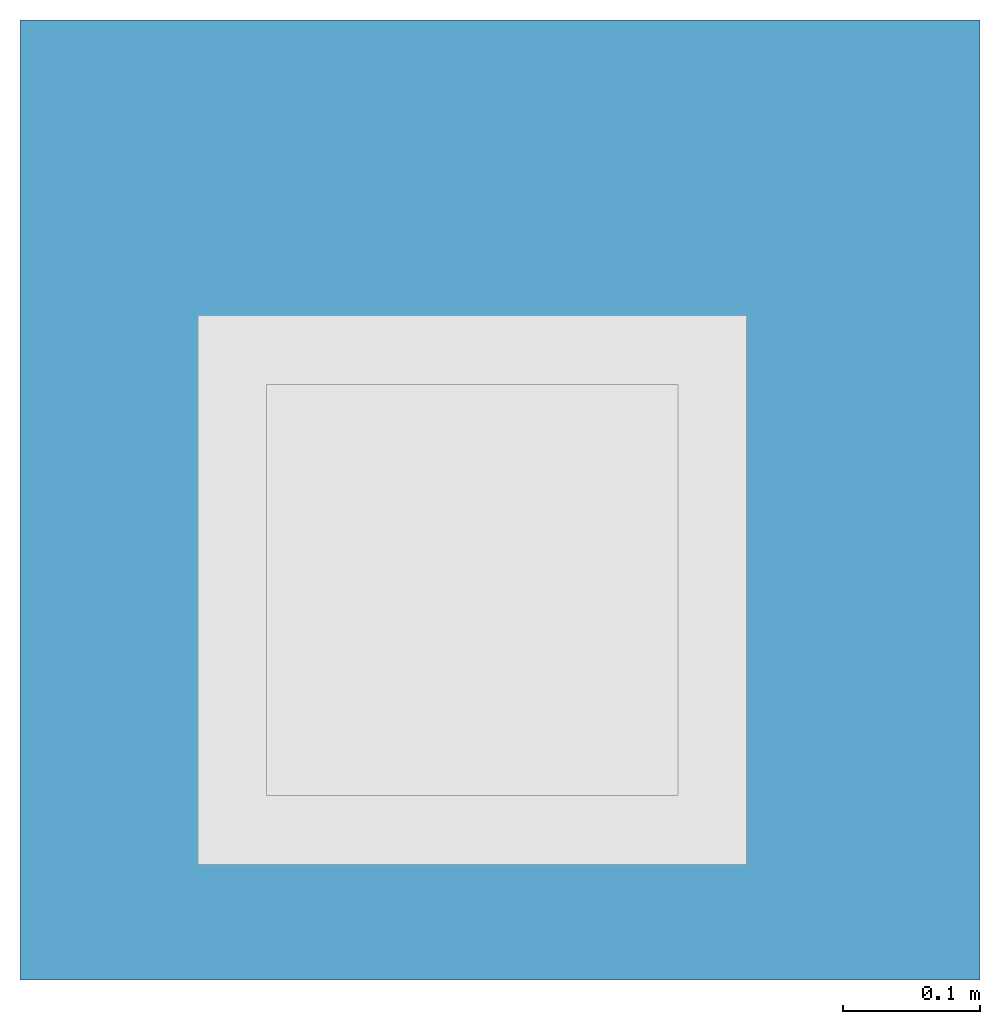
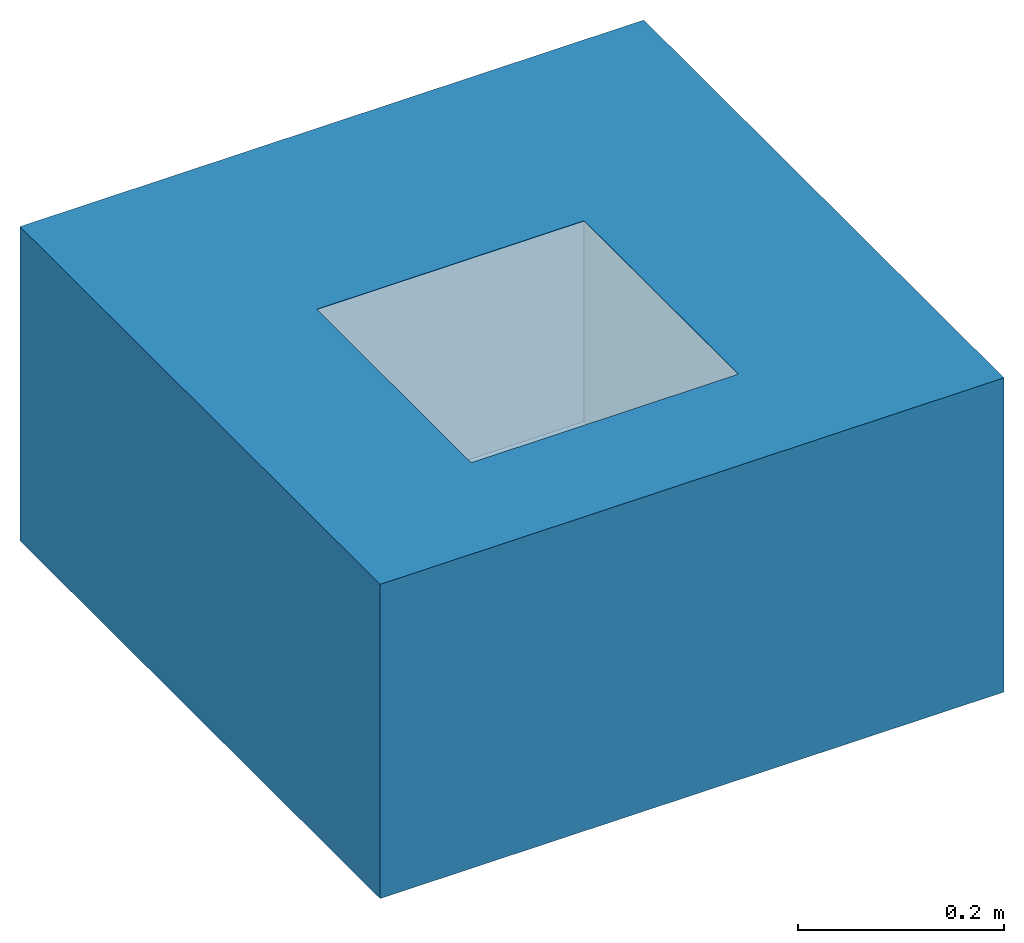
# One storey, incomplete: 1 slab, 1 opening.
"""IFC2X3 building model written with IfcOpenShell, lengths in millimetres."""

from ifc_helpers import new_model, entity, si_unit, converted_unit, derived_unit, direction, frame, frame_2d, origin, place, context, subcontext, project, spatial, rectangle, extrude, faceted_brep, material, layer, layer_set, layer_usage, element, save


model = new_model("IFC2X3")

# Units and contexts
model_context = context("Model", 3, precision=1e-05, world=origin(), true_north=direction((2.0, 6.12303176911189e-17, 1.0)))
context_of_model = context(None, 3, precision=1e-05, world=origin(), true_north=direction((2.0, 6.12303176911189e-17, 1.0)))
body_context = subcontext(model_context, "Body", "Model", "MODEL_VIEW")
ifc_project = project(units=[si_unit("LENGTHUNIT", "METRE", prefix="MILLI"), converted_unit("AREAUNIT", "SQUARE FOOT", entity("IfcRatioMeasure", 0.09290304), si_unit("AREAUNIT", "SQUARE_METRE"), dimensions=[2, 0, 0, 0, 0, 0, 0]), converted_unit("VOLUMEUNIT", "CUBIC FOOT", entity("IfcRatioMeasure", 0.028316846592), si_unit("VOLUMEUNIT", "CUBIC_METRE"), dimensions=[3, 0, 0, 0, 0, 0, 0]), converted_unit("PLANEANGLEUNIT", "DEGREE", entity("IfcRatioMeasure", 0.0174532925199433), si_unit("PLANEANGLEUNIT", "RADIAN"), dimensions=[0, 0, 0, 0, 0, 0, 0]), si_unit("MASSUNIT", "GRAM", prefix="KILO"), si_unit("TIMEUNIT", "SECOND"), si_unit("THERMODYNAMICTEMPERATUREUNIT", "KELVIN"), derived_unit("THERMALTRANSMITTANCEUNIT", [(si_unit("MASSUNIT", "GRAM", prefix="KILO"), 1), (si_unit("THERMODYNAMICTEMPERATUREUNIT", "KELVIN"), -1), (si_unit("TIMEUNIT", "SECOND"), -3)]), derived_unit("VOLUMETRICFLOWRATEUNIT", [(si_unit("LENGTHUNIT", "METRE"), 3), (si_unit("TIMEUNIT", "SECOND"), -1)]), si_unit("POWERUNIT", "WATT")], contexts=[model_context, context_of_model])

# Site, building, storey
site_placement = place(None, origin())
site = spatial("IfcSite", under=ifc_project, at=site_placement, Name="Default", CompositionType="ELEMENT")
building_placement = place(site_placement, origin())
building = spatial("IfcBuilding", under=site, at=building_placement, CompositionType="ELEMENT")
storey_placement = place(building_placement, origin())
storey = spatial("IfcBuildingStorey", under=building, at=storey_placement, Name="Level 1", CompositionType="ELEMENT", Elevation=0.0)

# Slab, opening
ifc_material_1 = material(Name="Plywood, Sheathing")
ifc_layer_1 = layer(ifc_material_1, 68.0)
ifc_material_2 = material(Name="Default Floor")
ifc_layer_2 = layer(ifc_material_2, 304.8)
ifc_layer_set = layer_set([ifc_layer_1, ifc_layer_2], Name="Floor:Generic - 12\"")
ifc_layer_usage = layer_usage(ifc_layer_set, "AXIS3", "POSITIVE", 0.0)
slab_placement = place(storey_placement, frame((-10498.0627721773, 2392.60708548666, -372.8)))
slab = element("IfcSlab", 1, at=slab_placement, inside=storey, material=ifc_layer_usage, Name="Floor:Generic - 12\"", ObjectType="Floor:Generic - 12\"", PredefinedType="FLOOR", context=body_context, shape_type="SweptSolid", body=[
    extrude(rectangle(XDim=700.0, YDim=699.999999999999, at=frame_2d((0.0, 0.0), x_axis=(0.0, -1.0))), frame((350.0, 350.0, 372.8), z_axis=(0.0, 0.0, -1.0), x_axis=(-1.0, 0.0, 0.0)), (0.0, 0.0, 1.0), 372.8),
])
opening_placement = place(slab_placement, frame((179.716081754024, 134.384728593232, 57.799999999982)))
element("IfcOpeningElement", 2, at=opening_placement, cuts=slab, ObjectType="Recess", context=body_context, shape_type="Brep", body=[
    faceted_brep([(0.0, 300.0, 77.0), (80.7179676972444, 190.0, 77.0), (72.7259338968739, 170.705523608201, 77.0), (93.4314575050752, 206.568542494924, 77.0), (70.0, 150.0, 77.0), (150.0, 230.0, 77.0), (129.294476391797, 227.274066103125, 77.0), (110.0, 219.282032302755, 77.0), (300.0, 300.0, 77.0), (0.0, 0.0, 77.0), (72.7259338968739, 129.294476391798, 77.0), (80.7179676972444, 110.0, 77.0), (93.4314575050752, 93.4314575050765, 77.0), (110.0, 80.7179676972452, 77.0), (129.294476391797, 72.7259338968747, 77.0), (150.0, 70.0, 77.0), (190.0, 219.282032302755, 77.0), (170.705523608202, 227.274066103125, 77.0), (206.568542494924, 206.568542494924, 77.0), (219.282032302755, 190.0, 77.0), (227.274066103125, 170.705523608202, 77.0), (230.0, 150.0, 77.0), (300.0, 0.0, 77.0), (170.705523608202, 72.7259338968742, 77.0), (190.0, 80.7179676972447, 77.0), (219.282032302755, 110.0, 77.0), (227.274066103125, 129.294476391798, 77.0), (206.568542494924, 93.431457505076, 77.0), (300.0, 0.0, 315.0), (300.0, 300.0, 315.0), (0.0, 300.0, 315.0), (0.0, 0.0, 315.0), (150.0, 230.0, 0.0), (170.705523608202, 227.274066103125, 0.0), (190.0, 219.282032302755, 0.0), (110.0, 219.282032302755, 0.0), (206.568542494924, 206.568542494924, 0.0), (219.282032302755, 190.0, 0.0), (227.274066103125, 170.705523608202, 0.0), (72.7259338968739, 170.705523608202, 0.0), (93.4314575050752, 206.568542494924, 0.0), (129.294476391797, 227.274066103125, 0.0), (80.7179676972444, 190.0, 0.0), (70.0, 150.0, 0.0), (230.0, 150.0, 0.0), (227.274066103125, 129.294476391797, 0.0), (219.282032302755, 110.0, 0.0), (170.705523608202, 72.7259338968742, 0.0), (206.568542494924, 93.4314575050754, 0.0), (190.0, 80.7179676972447, 0.0), (129.294476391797, 72.7259338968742, 0.0), (72.7259338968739, 129.294476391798, 0.0), (93.4314575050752, 93.431457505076, 0.0), (80.7179676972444, 110.0, 0.0), (110.0, 80.7179676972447, 0.0), (150.0, 70.0, 0.0)], [[[0, 1, 2]], [[1, 0, 3]], [[0, 2, 4]], [[5, 6, 0]], [[7, 3, 0]], [[6, 7, 0]], [[0, 8, 5]], [[9, 4, 10]], [[4, 9, 0]], [[9, 10, 11]], [[11, 12, 9]], [[13, 14, 9]], [[12, 13, 9]], [[9, 14, 15]], [[16, 17, 8]], [[18, 16, 8]], [[19, 8, 20]], [[8, 19, 18]], [[21, 20, 8]], [[8, 22, 21]], [[17, 5, 8]], [[23, 24, 22]], [[15, 23, 22]], [[25, 26, 22]], [[27, 22, 24]], [[22, 27, 25]], [[26, 21, 22]], [[15, 22, 9]], [[28, 29, 30]], [[30, 31, 28]], [[30, 29, 0]], [[8, 0, 29]], [[31, 30, 9]], [[0, 9, 30]], [[28, 31, 22]], [[9, 22, 31]], [[29, 28, 8]], [[22, 8, 28]], [[32, 33, 34]], [[35, 32, 34]], [[36, 37, 38]], [[35, 34, 36]], [[35, 36, 38]], [[35, 39, 40]], [[35, 41, 32]], [[40, 39, 42]], [[39, 35, 43]], [[38, 43, 35]], [[38, 44, 43]], [[44, 45, 46]], [[44, 46, 47]], [[48, 49, 47]], [[48, 47, 46]], [[47, 50, 43]], [[51, 52, 53]], [[52, 51, 54]], [[51, 50, 54]], [[43, 50, 51]], [[47, 55, 50]], [[43, 44, 47]], [[11, 53, 52]], [[13, 54, 50]], [[52, 54, 12]], [[55, 14, 50]], [[4, 51, 10]], [[51, 4, 43]], [[51, 53, 10]], [[53, 11, 10]], [[52, 12, 11]], [[13, 12, 54]], [[50, 14, 13]], [[55, 15, 14]], [[23, 47, 49]], [[48, 24, 49]], [[25, 46, 45]], [[48, 46, 27]], [[26, 45, 44]], [[47, 23, 15]], [[49, 24, 23]], [[48, 27, 24]], [[46, 25, 27]], [[26, 25, 45]], [[44, 21, 26]], [[47, 15, 55]], [[38, 20, 44]], [[37, 19, 38]], [[33, 32, 17]], [[36, 18, 37]], [[38, 19, 20]], [[20, 21, 44]], [[16, 34, 17]], [[16, 18, 36]], [[34, 33, 17]], [[18, 19, 37]], [[36, 34, 16]], [[32, 5, 17]], [[6, 41, 35]], [[40, 7, 35]], [[1, 42, 39]], [[40, 42, 3]], [[2, 39, 43]], [[41, 6, 5]], [[35, 7, 6]], [[40, 3, 7]], [[42, 1, 3]], [[2, 1, 39]], [[43, 4, 2]], [[41, 5, 32]]]),
])

save(model, "model.ifc")
